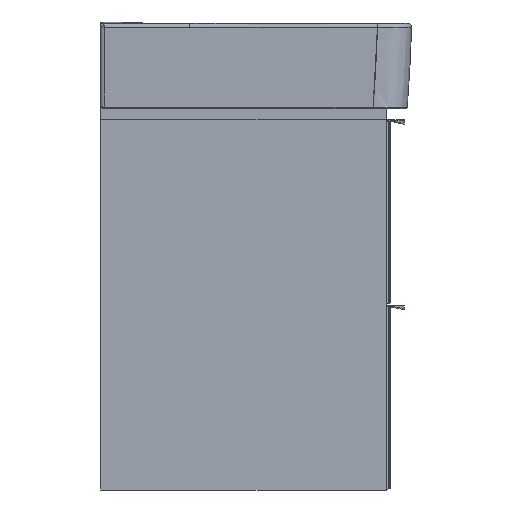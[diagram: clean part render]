
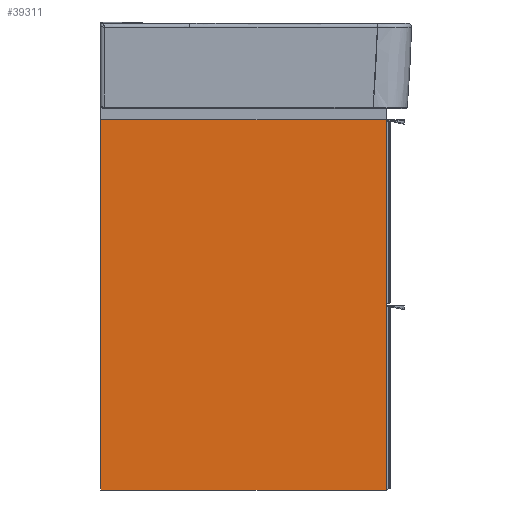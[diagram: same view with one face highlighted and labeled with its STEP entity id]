
A CAD part, left-side view. The second image highlights one B-rep face of the part: STEP entity #39311.
In plain terms, the highlighted planar face has unit normal (-1, 0, 0).
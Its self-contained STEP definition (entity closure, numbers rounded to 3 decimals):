
#3337=PLANE('',#44444);
#5209=FACE_OUTER_BOUND('',#7305,.T.);
#7305=EDGE_LOOP('',(#37007,#37008,#37009,#37010));
#13018=LINE('',#172198,#16106);
#13022=LINE('',#172205,#16110);
#13025=LINE('',#172211,#16113);
#13027=LINE('',#172214,#16115);
#16106=VECTOR('',#53969,1.);
#16110=VECTOR('',#53975,1.);
#16113=VECTOR('',#53980,1.);
#16115=VECTOR('',#53984,1.);
#21307=VERTEX_POINT('',#172195);
#21308=VERTEX_POINT('',#172197);
#21310=VERTEX_POINT('',#172203);
#21312=VERTEX_POINT('',#172209);
#27550=EDGE_CURVE('',#21308,#21307,#13018,.T.);
#27554=EDGE_CURVE('',#21307,#21310,#13022,.T.);
#27557=EDGE_CURVE('',#21310,#21312,#13025,.T.);
#27559=EDGE_CURVE('',#21312,#21308,#13027,.T.);
#37007=ORIENTED_EDGE('',*,*,#27559,.T.);
#37008=ORIENTED_EDGE('',*,*,#27550,.T.);
#37009=ORIENTED_EDGE('',*,*,#27554,.T.);
#37010=ORIENTED_EDGE('',*,*,#27557,.T.);
#39311=ADVANCED_FACE('',(#5209),#3337,.F.);
#44444=AXIS2_PLACEMENT_3D('',#172216,#53987,#53988);
#53969=DIRECTION('',(0.,0.,1.));
#53975=DIRECTION('',(0.,1.,0.));
#53980=DIRECTION('',(0.,0.,-1.));
#53984=DIRECTION('',(0.,-1.,0.));
#53987=DIRECTION('center_axis',(1.,0.,0.));
#53988=DIRECTION('ref_axis',(0.,0.,-1.));
#172195=CARTESIAN_POINT('',(1393.637,-3703.259,-90.948));
#172197=CARTESIAN_POINT('',(1393.637,-3703.259,-590.948));
#172198=CARTESIAN_POINT('',(1393.637,-3703.259,-590.948));
#172203=CARTESIAN_POINT('',(1393.637,-3317.259,-90.948));
#172205=CARTESIAN_POINT('',(1393.637,-3703.259,-90.948));
#172209=CARTESIAN_POINT('',(1393.637,-3317.259,-590.948));
#172211=CARTESIAN_POINT('',(1393.637,-3317.259,-90.948));
#172214=CARTESIAN_POINT('',(1393.637,-3317.259,-590.948));
#172216=CARTESIAN_POINT('Origin',(1393.637,-3510.259,-340.948));
